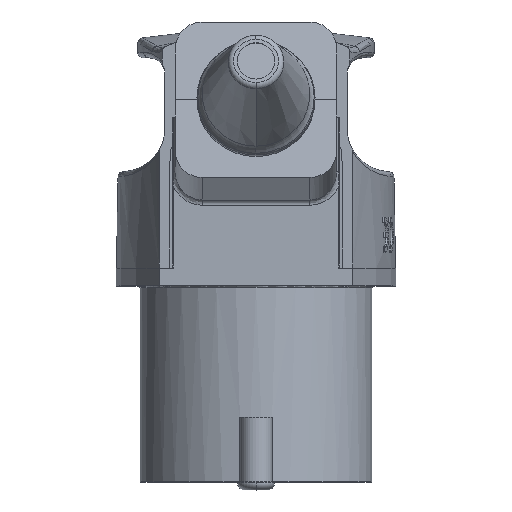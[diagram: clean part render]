
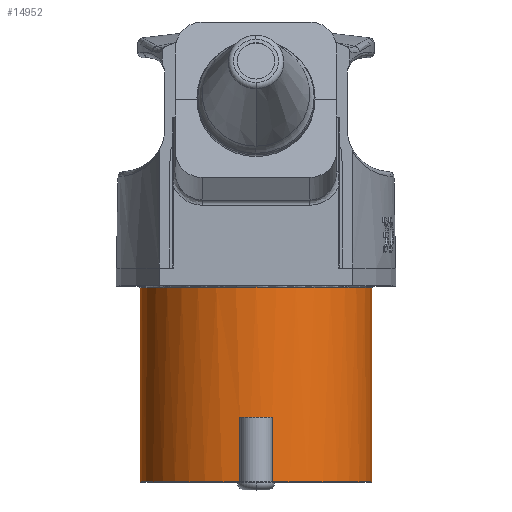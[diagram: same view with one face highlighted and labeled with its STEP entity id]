
A CAD part, top view. The second image highlights one B-rep face of the part: STEP entity #14952.
In plain terms, the highlighted cylindrical face has radius 21.6 mm (diameter 43.2 mm), a partial arc.
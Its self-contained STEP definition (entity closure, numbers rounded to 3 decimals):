
#3404=CARTESIAN_POINT('',(0.,-0.3,0.));
#3405=DIRECTION('',(0.,-1.,0.));
#3406=DIRECTION('',(0.766,0.,0.643));
#3407=AXIS2_PLACEMENT_3D('',#3404,#3405,#3406);
#4956=CARTESIAN_POINT('',(0.,-0.3,0.));
#4957=DIRECTION('',(0.,-1.,0.));
#4958=DIRECTION('',(1.,0.,0.));
#4959=AXIS2_PLACEMENT_3D('',#4956,#4957,#4958);
#4961=DIRECTION('',(0.,-1.,0.));
#4962=VECTOR('',#4961,36.2);
#4963=CARTESIAN_POINT('',(21.6,-0.3,0.));
#4964=LINE('813',#4963,#4962);
#4965=DIRECTION('',(0.,-1.,0.));
#4966=VECTOR('',#4965,12.);
#4967=CARTESIAN_POINT('',(3.,-24.5,21.391));
#4968=LINE('716',#4967,#4966);
#4969=CARTESIAN_POINT('',(0.,-24.5,0.));
#4970=DIRECTION('',(0.,-1.,0.));
#4971=DIRECTION('',(0.139,0.,0.99));
#4972=AXIS2_PLACEMENT_3D('',#4969,#4970,#4971);
#4974=DIRECTION('',(0.,-1.,0.));
#4975=VECTOR('',#4974,12.);
#4976=CARTESIAN_POINT('',(-3.,-24.5,21.391));
#4977=LINE('717',#4976,#4975);
#4983=DIRECTION('',(0.,-1.,0.));
#4984=VECTOR('',#4983,36.2);
#4985=CARTESIAN_POINT('',(-21.6,-0.3,0.));
#4986=LINE('812',#4985,#4984);
#4987=CARTESIAN_POINT('',(0.,-36.5,0.));
#4988=DIRECTION('',(0.,-1.,0.));
#4989=DIRECTION('',(-0.139,0.,0.99));
#4990=AXIS2_PLACEMENT_3D('',#4987,#4988,#4989);
#5005=CARTESIAN_POINT('',(0.,-36.5,0.));
#5006=DIRECTION('',(0.,-1.,0.));
#5007=DIRECTION('',(1.,0.,0.));
#5008=AXIS2_PLACEMENT_3D('',#5005,#5006,#5007);
#5468=CARTESIAN_POINT('',(-21.6,-36.5,0.));
#5469=CARTESIAN_POINT('',(21.6,-36.5,0.));
#5470=VERTEX_POINT('',#5468);
#5471=VERTEX_POINT('',#5469);
#5480=CARTESIAN_POINT('',(3.,-24.5,21.391));
#5481=CARTESIAN_POINT('',(3.,-36.5,21.391));
#5482=VERTEX_POINT('',#5480);
#5483=VERTEX_POINT('',#5481);
#5484=CARTESIAN_POINT('',(-3.,-24.5,21.391));
#5485=CARTESIAN_POINT('',(-3.,-36.5,21.391));
#5486=VERTEX_POINT('',#5484);
#5487=VERTEX_POINT('',#5485);
#5610=CARTESIAN_POINT('',(-21.6,-0.3,0.));
#5611=CARTESIAN_POINT('',(21.6,-0.3,0.));
#5612=VERTEX_POINT('',#5610);
#5613=VERTEX_POINT('',#5611);
#5618=CARTESIAN_POINT('',(16.546,-0.3,13.884));
#5619=VERTEX_POINT('',#5618);
#14929=CARTESIAN_POINT('',(0.,0.,0.));
#14930=DIRECTION('',(0.,-1.,0.));
#14931=DIRECTION('',(-1.,0.,0.));
#14932=AXIS2_PLACEMENT_3D('',#14929,#14930,#14931);
#14933=CYLINDRICAL_SURFACE('405',#14932,21.6);
#14934=ORIENTED_EDGE('826',*,*,#12277,.F.);
#14935=ORIENTED_EDGE('809',*,*,#14910,.F.);
#14937=ORIENTED_EDGE('813',*,*,#14936,.T.);
#14939=ORIENTED_EDGE('719',*,*,#14938,.T.);
#14941=ORIENTED_EDGE('716',*,*,#14940,.F.);
#14943=ORIENTED_EDGE('718',*,*,#14942,.T.);
#14945=ORIENTED_EDGE('717',*,*,#14944,.T.);
#14947=ORIENTED_EDGE('720',*,*,#14946,.T.);
#14949=ORIENTED_EDGE('812',*,*,#14948,.F.);
#14950=EDGE_LOOP('405',(#14934,#14935,#14937,#14939,#14941,#14943,#14945,#14947,
#14949));
#14951=FACE_OUTER_BOUND('405',#14950,.F.);
#3408=CIRCLE('826',#3407,21.6);
#4960=CIRCLE('809',#4959,21.6);
#4973=CIRCLE('718',#4972,21.6);
#4991=CIRCLE('720',#4990,21.6);
#5009=CIRCLE('719',#5008,21.6);
#12277=EDGE_CURVE('826',#5619,#5612,#3408,.T.);
#14910=EDGE_CURVE('809',#5613,#5619,#4960,.T.);
#14936=EDGE_CURVE('813',#5613,#5471,#4964,.T.);
#14938=EDGE_CURVE('719',#5471,#5483,#5009,.T.);
#14940=EDGE_CURVE('716',#5482,#5483,#4968,.T.);
#14942=EDGE_CURVE('718',#5482,#5486,#4973,.T.);
#14944=EDGE_CURVE('717',#5486,#5487,#4977,.T.);
#14946=EDGE_CURVE('720',#5487,#5470,#4991,.T.);
#14948=EDGE_CURVE('812',#5612,#5470,#4986,.T.);
#14952=ADVANCED_FACE('405',(#14951),#14933,.T.);
